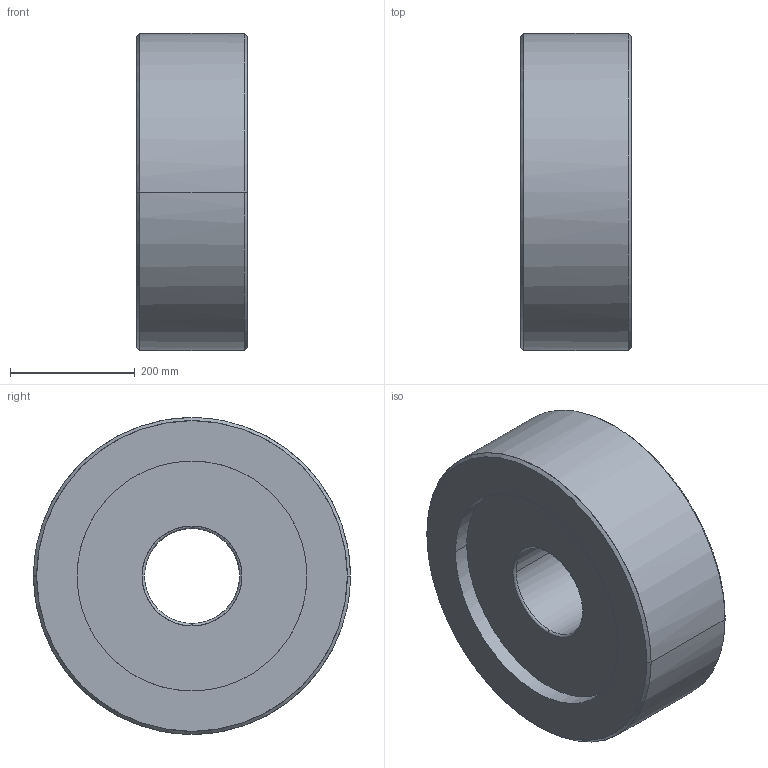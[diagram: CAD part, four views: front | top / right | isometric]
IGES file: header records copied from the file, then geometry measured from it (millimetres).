
Global section: native system: Kubotek KeyCreator; preprocessor: KCM Version 1.1.1442.0; author: KeyCreator User; organization: Self; date: 20170713.045039; units: inch
Bounding box: 177.8 x 508 x 508 mm (x, y, z)
Surface area: 761356.5 mm2 (no closed solid volume)
Topology: 0 solids, 0 shells, 20 faces, 128 edges, 128 vertices
Faces by surface type: bspline 20
